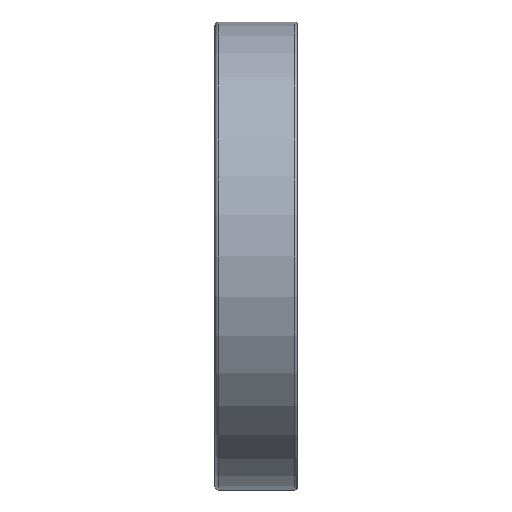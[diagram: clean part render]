
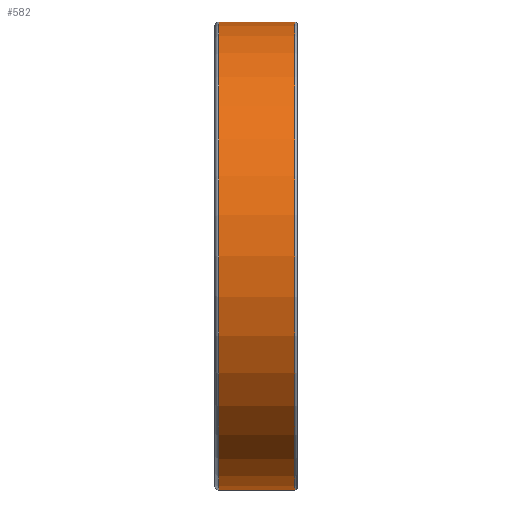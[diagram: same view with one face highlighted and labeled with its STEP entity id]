
A CAD part, front view. The second image highlights one B-rep face of the part: STEP entity #582.
In plain terms, the highlighted cylindrical face has radius 62.5 mm (diameter 125 mm), a full revolution.
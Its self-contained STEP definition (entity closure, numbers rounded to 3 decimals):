
#173=CYLINDRICAL_SURFACE('',#918,62.5);
#281=EDGE_LOOP('',(#401));
#282=EDGE_LOOP('',(#402));
#401=ORIENTED_EDGE('',*,*,#469,.F.);
#402=ORIENTED_EDGE('',*,*,#467,.T.);
#467=EDGE_CURVE('',#841,#841,#487,.T.);
#469=EDGE_CURVE('',#843,#843,#489,.T.);
#487=CIRCLE('',#914,62.5);
#489=CIRCLE('',#917,62.5);
#582=ADVANCED_FACE('',(#735,#736),#173,.T.);
#735=FACE_BOUND('',#281,.T.);
#736=FACE_BOUND('',#282,.T.);
#841=VERTEX_POINT('',#1938);
#843=VERTEX_POINT('',#1943);
#914=AXIS2_PLACEMENT_3D('',#1937,#1048,#1049);
#917=AXIS2_PLACEMENT_3D('',#1942,#1054,#1055);
#918=AXIS2_PLACEMENT_3D('',#1944,#1056,#1057);
#1048=DIRECTION('',(1.,0.,0.));
#1049=DIRECTION('',(0.,0.,-1.));
#1054=DIRECTION('',(1.,0.,0.));
#1055=DIRECTION('',(0.,0.,-1.));
#1056=DIRECTION('',(1.,0.,0.));
#1057=DIRECTION('',(0.,0.,-1.));
#1937=CARTESIAN_POINT('',(-9.9,0.,0.));
#1938=CARTESIAN_POINT('',(-9.9,0.,-62.5));
#1942=CARTESIAN_POINT('',(10.4,0.,0.));
#1943=CARTESIAN_POINT('',(10.4,0.,-62.5));
#1944=CARTESIAN_POINT('',(-9.9,0.,0.));
